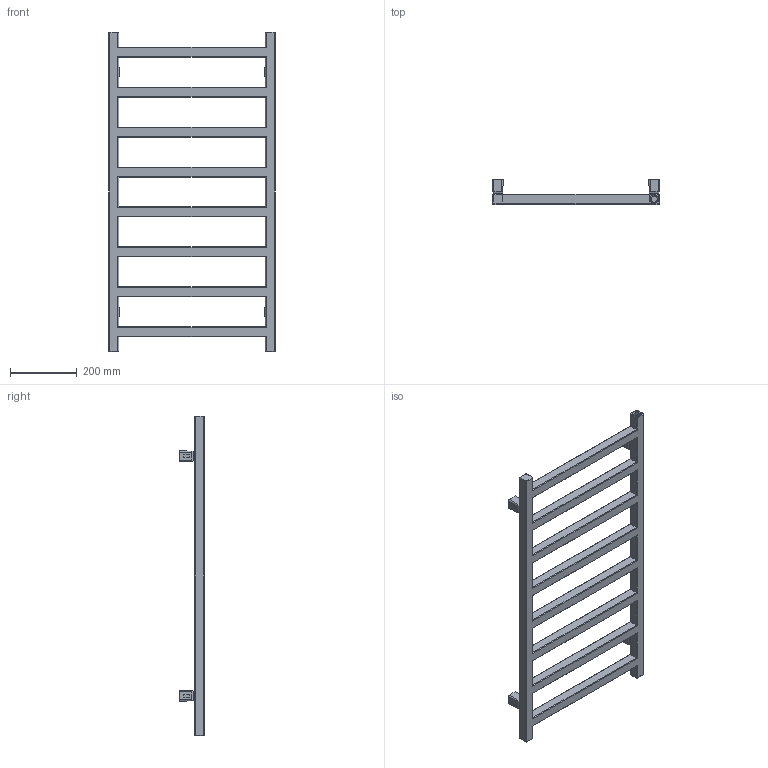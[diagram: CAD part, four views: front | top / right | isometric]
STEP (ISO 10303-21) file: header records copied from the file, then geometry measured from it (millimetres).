
FILE_DESCRIPTION((''),'2;1');
FILE_NAME('Z:\R\G\P\RGP035 - Grzejnik Simple\Work\Inventor\Marketing\AutoCad 3D\G-SI-XX-MK-XX-96-50-SX.stp','2012-07-24T13:43:15',('DawPi'),(''),'Autodesk Inventor 2012','Autodesk Inventor 2012','');
FILE_SCHEMA(('AUTOMOTIVE_DESIGN { 1 0 10303 214 1 1 1 1 }'));
Length unit declared in the file: millimetre
Products named in the file (3): G-SI-XX-MK-XX-96-50-SX; MKT42-00-A v0.2
Assembly tree (5 placements, depth 2):
  G-SI-XX-MK-XX-96-50-SX
    G-SI-XX-MK-XX-96-50-SX
    MKT42-00-A v0.2  x4
Bounding box: 503.98 x 74.5 x 960 mm (x, y, z)
Volume: 5019681.9 mm3; surface area: 655844.3 mm2
Topology: 5 solids, 5 shells, 431 faces, 1067 edges, 677 vertices
Faces by surface type: cylinder 199, plane 161, bspline 60, torus 11
Full cylindrical faces by diameter (mm): 4.134 x4, 10 x4, 12 x4, 18.631 x3
Entity records: 8849 total; most frequent: CARTESIAN_POINT 3133, ORIENTED_EDGE 1166, DIRECTION 1148, EDGE_CURVE 583, AXIS2_PLACEMENT_3D 430, VERTEX_POINT 383, EDGE_LOOP 288, VECTOR 288
